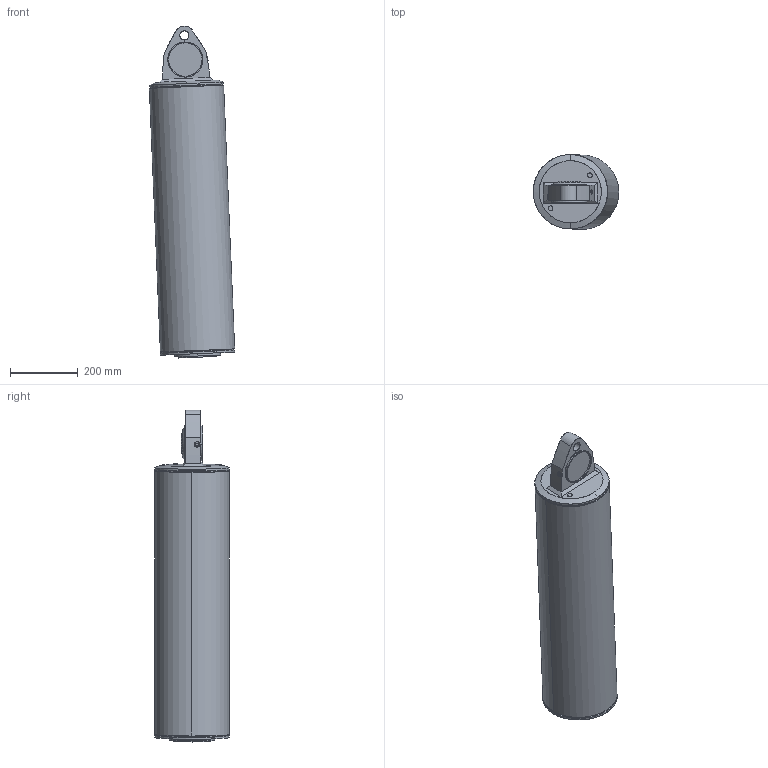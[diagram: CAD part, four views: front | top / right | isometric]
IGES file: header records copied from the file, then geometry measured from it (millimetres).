
Start section: SolidWorks IGES file using analytic representation for surfaces
Global section: file name: B:\DM\Robotics\SEROP_PROJ\Product Development\DevelopmentProjects\Manipulator_Modularity\04. Product Design\06. CAD\Amanda\7710 Lightweight models\IRB7710_310kg-350_OC_00_SW_J\IRB77X0_All_OC_00_CYL_CAD.IGS; native system: SolidWorks 2022; preprocessor: SolidWorks 2022; author: SEAMSTO1; date: 240118.112752; units: millimetre
Bounding box: 253.25 x 220 x 982.48 mm (x, y, z)
Surface area: 948003.3 mm2 (no closed solid volume)
Topology: 0 solids, 0 shells, 110 faces, 2460 edges, 2460 vertices
Faces by surface type: revolution 76, bspline 34
